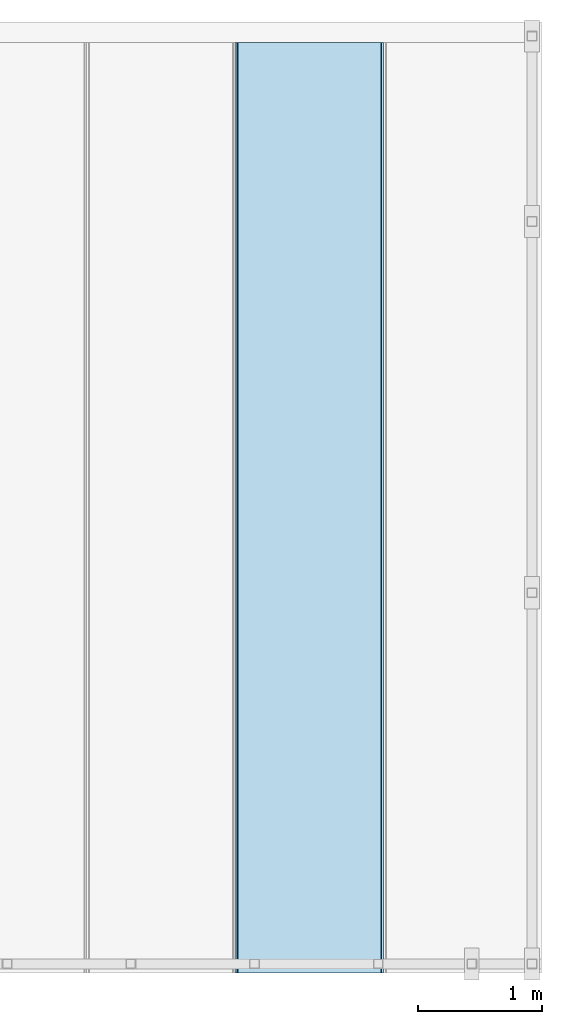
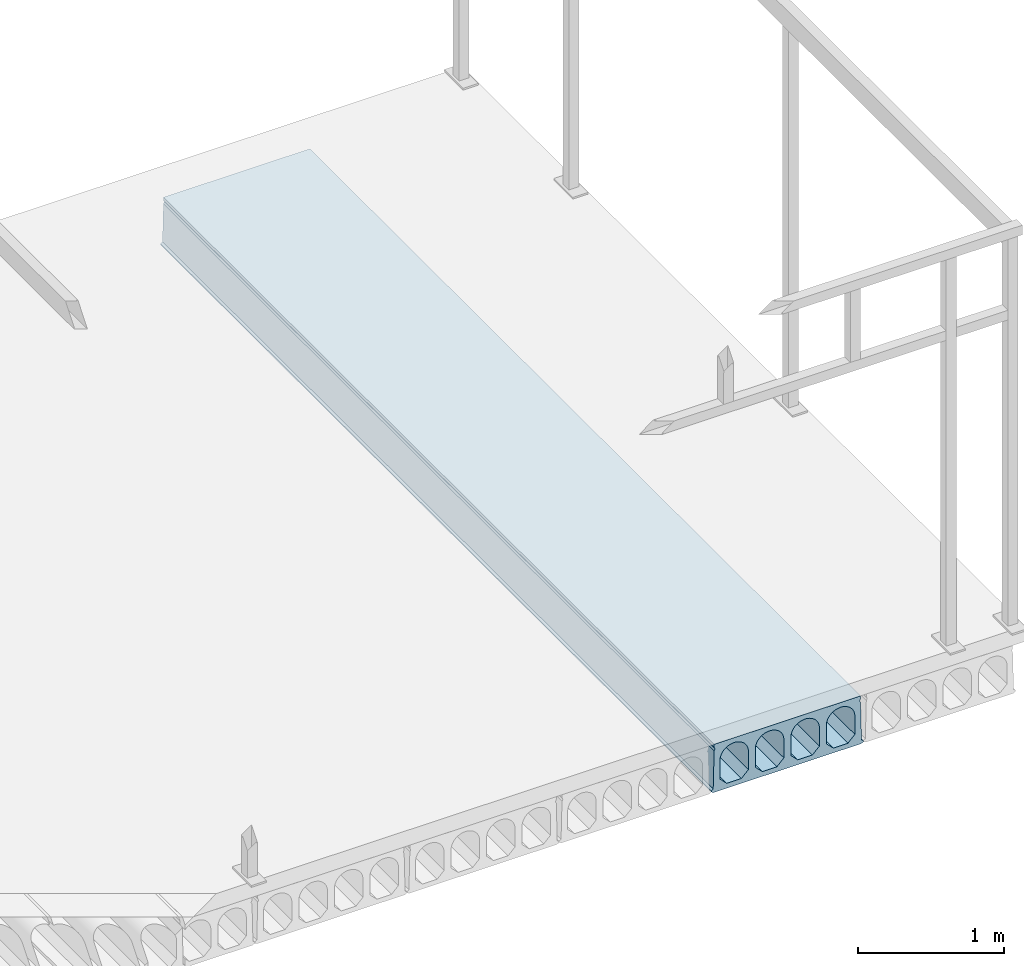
# One storey, part 19 of 20: 1 slab.
"""IFC2X3 building model written with IfcOpenShell, lengths in millimetres."""

from ifc_helpers import new_model, entity, si_unit, converted_unit, derived_unit, direction, frame, origin_with_axes, place, context, subcontext, project, spatial, faceted_brep, type_object, element, save


model = new_model("IFC2X3")

# Units and contexts
model_context = context("Model", 3, precision=0.01, world=frame((0.0, 4.29681676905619e-09, 0.0)), true_north=direction((4.01073788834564e-13, 1.0)))
plan_context = context("Plan", 3, precision=0.01, world=frame((0.0, 4.29681676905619e-09, 0.0)), true_north=direction((4.01073788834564e-13, 1.0)))
body_context = subcontext(model_context, "Body", "Model", "MODEL_VIEW")
ifc_project = project(units=[converted_unit("PLANEANGLEUNIT", "DEGREE", entity("IfcPositiveLengthMeasure", 0.0174532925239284), si_unit("PLANEANGLEUNIT", "RADIAN"), dimensions=[0, 0, 0, 0, 0, 0, 0]), si_unit("AREAUNIT", "SQUARE_METRE"), si_unit("LENGTHUNIT", "METRE", prefix="MILLI"), si_unit("MASSUNIT", "GRAM", prefix="KILO"), si_unit("POWERUNIT", "WATT"), si_unit("PRESSUREUNIT", "PASCAL", prefix="KILO"), si_unit("FORCEUNIT", "NEWTON", prefix="KILO"), si_unit("ELECTRICVOLTAGEUNIT", "VOLT"), si_unit("ELECTRICCURRENTUNIT", "AMPERE"), si_unit("THERMODYNAMICTEMPERATUREUNIT", "DEGREE_CELSIUS"), si_unit("TIMEUNIT", "SECOND"), si_unit("VOLUMEUNIT", "CUBIC_METRE"), derived_unit("LINEARVELOCITYUNIT", [(si_unit("LENGTHUNIT", "METRE"), 1), (si_unit("TIMEUNIT", "SECOND"), -1)]), derived_unit("VOLUMETRICFLOWRATEUNIT", [(si_unit("VOLUMEUNIT", "CUBIC_METRE"), 1), (si_unit("TIMEUNIT", "SECOND"), -1)]), derived_unit("THERMALTRANSMITTANCEUNIT", [(si_unit("POWERUNIT", "WATT"), 1), (si_unit("THERMODYNAMICTEMPERATUREUNIT", "KELVIN"), -1), (si_unit("AREAUNIT", "SQUARE_METRE"), -1)]), derived_unit("SOUNDPRESSUREUNIT", [(si_unit("PRESSUREUNIT", "PASCAL"), 1)])], contexts=[model_context, plan_context])

# Site, building, storey
site_placement = place(None, frame((0.0, -4.29681676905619e-09, 0.0), z_axis=(0.0, 0.0, 1.0), x_axis=(1.0, 0.0, 0.0)))
site = spatial("IfcSite", under=ifc_project, at=site_placement, Name="Gardermoen", CompositionType="ELEMENT")
building_placement = place(site_placement, frame((0.0, 4.29681676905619e-09, 0.0), z_axis=(0.0, 0.0, 1.0), x_axis=(1.0, 0.0, 0.0)))
building = spatial("IfcBuilding", under=site, at=building_placement, Name="TS", CompositionType="ELEMENT")
storey_placement = place(building_placement, origin_with_axes())
storey = spatial("IfcBuildingStorey", under=building, at=storey_placement, Name="D", CompositionType="ELEMENT", Elevation=0.0)

# Slab
slab_type = type_object("IfcSlabType", Name="HD400", PredefinedType="NOTDEFINED")
slab_placement = place(storey_placement, frame((611199.999766, 396739.995625, 203600.0), z_axis=(0.0, 0.0, 1.0), x_axis=(0.0, 1.0, 0.0)))
element("IfcSlab", 1, at=slab_placement, inside=storey, type_object=slab_type, Name="HULLDEKKE", ObjectType="HD400", PredefinedType="FLOOR", context=body_context, shape_type="Brep", body=[
    faceted_brep([(996.504375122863, 600.0, -180.0), (996.504375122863, 600.0, -190.0), (8520.0, 600.0, -190.0), (8520.0, 600.0, -180.0), (996.504375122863, 585.0, -170.0), (8520.0, 585.0, -170.0), (996.504375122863, 577.5, 145.0), (8520.0, 577.5, 145.0), (996.504375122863, 570.0, 160.0), (8520.0, 570.0, 160.0), (996.504375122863, 577.5, 175.0), (8520.0, 577.5, 175.0), (996.504375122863, 577.5, 200.0), (8520.0, 577.5, 200.0), (996.504375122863, -577.5, 200.0), (8520.0, -577.5, 200.0), (996.504375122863, -577.5, 175.0), (8520.0, -577.5, 175.0), (996.504375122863, -570.0, 160.0), (8520.0, -570.0, 160.0), (996.504375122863, -577.5, 145.0), (8520.0, -577.5, 145.0), (996.504375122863, -585.0, -170.0), (8520.0, -585.0, -170.0), (996.504375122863, -600.0, -180.0), (8520.0, -600.0, -180.0), (996.504375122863, -600.0, -190.0), (8520.0, -600.0, -190.0), (996.504375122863, -583.380004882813, -200.0), (8520.0, -583.380004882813, -200.0), (996.504375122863, 583.380004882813, -200.0), (8520.0, 583.380004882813, -200.0), (996.504375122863, -477.5, -160.0), (996.504375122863, -362.5, -160.0), (8520.0, -362.5, -160.0), (8520.0, -477.5, -160.0), (996.504375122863, -532.5, -105.0), (8520.0, -532.5, -105.0), (996.504375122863, -532.5, 47.5), (8520.0, -532.5, 47.5), (996.504375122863, -532.115755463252, 56.7901763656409), (8520.0, -532.115755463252, 56.7901763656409), (996.504375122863, -530.965646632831, 66.0168914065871), (8520.0, -530.965646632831, 66.0168914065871), (996.504375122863, -529.057529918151, 75.1171173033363), (8520.0, -529.057529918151, 75.1171173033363), (996.504375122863, -526.404439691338, 84.028690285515), (8520.0, -526.404439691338, 84.028690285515), (996.504375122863, -523.024499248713, 92.6907352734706), (8520.0, -523.024499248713, 92.6907352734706), (996.504375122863, -518.940797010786, 101.044081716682), (8520.0, -518.940797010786, 101.044081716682), (996.504375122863, -514.181228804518, 109.031667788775), (8520.0, -514.181228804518, 109.031667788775), (996.504375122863, -508.778307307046, 116.598930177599), (8520.0, -508.778307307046, 116.598930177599), (996.504375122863, -502.768939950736, 123.694176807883), (8520.0, -502.768939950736, 123.694176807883), (996.504375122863, -496.194176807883, 130.268939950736), (8520.0, -496.194176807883, 130.268939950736), (996.504375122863, -489.098930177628, 136.278307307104), (8520.0, -489.098930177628, 136.278307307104), (996.504375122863, -481.531667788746, 141.681228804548), (8520.0, -481.531667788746, 141.681228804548), (996.504375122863, -473.544081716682, 146.440797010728), (8520.0, -473.544081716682, 146.440797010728), (996.504375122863, -465.190735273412, 150.524499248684), (8520.0, -465.190735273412, 150.524499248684), (996.504375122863, -456.528690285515, 153.904439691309), (8520.0, -456.528690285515, 153.904439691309), (996.504375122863, -447.617117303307, 156.55752991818), (8520.0, -447.617117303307, 156.55752991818), (996.504375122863, -438.516891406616, 158.465646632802), (8520.0, -438.516891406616, 158.465646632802), (996.504375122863, -429.290176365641, 159.615755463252), (8520.0, -429.290176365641, 159.615755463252), (996.504375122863, -420.0, 160.0), (8520.0, -420.0, 160.0), (996.504375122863, -410.709823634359, 159.615755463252), (8520.0, -410.709823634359, 159.615755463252), (996.504375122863, -401.483108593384, 158.465646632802), (8520.0, -401.483108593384, 158.465646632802), (996.504375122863, -392.382882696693, 156.55752991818), (8520.0, -392.382882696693, 156.55752991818), (996.504375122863, -383.471309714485, 153.904439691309), (8520.0, -383.471309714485, 153.904439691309), (996.504375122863, -374.809264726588, 150.524499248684), (8520.0, -374.809264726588, 150.524499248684), (996.504375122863, -366.455918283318, 146.440797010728), (8520.0, -366.455918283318, 146.440797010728), (996.504375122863, -358.468332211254, 141.681228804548), (8520.0, -358.468332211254, 141.681228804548), (996.504375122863, -350.901069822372, 136.278307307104), (8520.0, -350.901069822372, 136.278307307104), (996.504375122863, -343.805823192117, 130.268939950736), (8520.0, -343.805823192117, 130.268939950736), (996.504375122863, -337.231060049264, 123.694176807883), (8520.0, -337.231060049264, 123.694176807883), (996.504375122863, -331.221692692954, 116.598930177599), (8520.0, -331.221692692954, 116.598930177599), (996.504375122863, -325.818771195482, 109.031667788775), (8520.0, -325.818771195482, 109.031667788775), (996.504375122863, -321.059202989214, 101.044081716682), (8520.0, -321.059202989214, 101.044081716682), (996.504375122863, -316.975500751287, 92.6907352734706), (8520.0, -316.975500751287, 92.6907352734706), (996.504375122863, -313.595560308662, 84.028690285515), (8520.0, -313.595560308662, 84.028690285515), (996.504375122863, -310.942470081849, 75.1171173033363), (8520.0, -310.942470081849, 75.1171173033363), (996.504375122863, -309.034353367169, 66.0168914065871), (8520.0, -309.034353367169, 66.0168914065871), (996.504375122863, -307.884244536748, 56.7901763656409), (8520.0, -307.884244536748, 56.7901763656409), (996.504375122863, -307.5, 47.5), (8520.0, -307.5, 47.5), (996.504375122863, -307.5, -105.0), (8520.0, -307.5, -105.0), (996.504375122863, -197.5, -160.0), (996.504375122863, -82.5, -160.0), (8520.0, -82.5, -160.0), (8520.0, -197.5, -160.0), (996.504375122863, -252.5, -105.0), (8520.0, -252.5, -105.0), (996.504375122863, -252.5, 47.5), (8520.0, -252.5, 47.5), (996.504375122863, -252.115755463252, 56.7901763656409), (8520.0, -252.115755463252, 56.7901763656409), (996.504375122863, -250.965646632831, 66.0168914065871), (8520.0, -250.965646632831, 66.0168914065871), (996.504375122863, -249.057529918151, 75.1171173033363), (8520.0, -249.057529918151, 75.1171173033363), (996.504375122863, -246.404439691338, 84.028690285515), (8520.0, -246.404439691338, 84.028690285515), (996.504375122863, -243.024499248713, 92.6907352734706), (8520.0, -243.024499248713, 92.6907352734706), (996.504375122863, -238.940797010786, 101.044081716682), (8520.0, -238.940797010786, 101.044081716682), (996.504375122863, -234.181228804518, 109.031667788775), (8520.0, -234.181228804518, 109.031667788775), (996.504375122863, -228.778307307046, 116.598930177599), (8520.0, -228.778307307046, 116.598930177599), (996.504375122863, -222.768939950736, 123.694176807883), (8520.0, -222.768939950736, 123.694176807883), (996.504375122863, -216.194176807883, 130.268939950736), (8520.0, -216.194176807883, 130.268939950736), (996.504375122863, -209.098930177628, 136.278307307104), (8520.0, -209.098930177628, 136.278307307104), (996.504375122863, -201.531667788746, 141.681228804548), (8520.0, -201.531667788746, 141.681228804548), (996.504375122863, -193.544081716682, 146.440797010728), (8520.0, -193.544081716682, 146.440797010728), (996.504375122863, -185.190735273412, 150.524499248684), (8520.0, -185.190735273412, 150.524499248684), (996.504375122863, -176.528690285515, 153.904439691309), (8520.0, -176.528690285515, 153.904439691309), (996.504375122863, -167.617117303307, 156.55752991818), (8520.0, -167.617117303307, 156.55752991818), (996.504375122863, -158.516891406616, 158.465646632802), (8520.0, -158.516891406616, 158.465646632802), (996.504375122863, -149.290176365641, 159.615755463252), (8520.0, -149.290176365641, 159.615755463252), (996.504375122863, -140.0, 160.0), (8520.0, -140.0, 160.0), (996.504375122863, -130.709823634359, 159.615755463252), (8520.0, -130.709823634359, 159.615755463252), (996.504375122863, -121.483108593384, 158.465646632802), (8520.0, -121.483108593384, 158.465646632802), (996.504375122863, -112.382882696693, 156.55752991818), (8520.0, -112.382882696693, 156.55752991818), (996.504375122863, -103.471309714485, 153.904439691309), (8520.0, -103.471309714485, 153.904439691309), (996.504375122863, -94.8092647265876, 150.524499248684), (8520.0, -94.8092647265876, 150.524499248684), (996.504375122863, -86.4559182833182, 146.440797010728), (8520.0, -86.4559182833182, 146.440797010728), (996.504375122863, -78.4683322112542, 141.681228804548), (8520.0, -78.4683322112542, 141.681228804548), (996.504375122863, -70.9010698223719, 136.278307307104), (8520.0, -70.9010698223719, 136.278307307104), (996.504375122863, -63.8058231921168, 130.268939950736), (8520.0, -63.8058231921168, 130.268939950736), (996.504375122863, -57.2310600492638, 123.694176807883), (8520.0, -57.2310600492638, 123.694176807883), (996.504375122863, -51.2216926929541, 116.598930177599), (8520.0, -51.2216926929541, 116.598930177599), (996.504375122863, -45.8187711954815, 109.031667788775), (8520.0, -45.8187711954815, 109.031667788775), (996.504375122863, -41.0592029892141, 101.044081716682), (8520.0, -41.0592029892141, 101.044081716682), (996.504375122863, -36.9755007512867, 92.6907352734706), (8520.0, -36.9755007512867, 92.6907352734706), (996.504375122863, -33.5955603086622, 84.028690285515), (8520.0, -33.5955603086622, 84.028690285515), (996.504375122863, -30.942470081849, 75.1171173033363), (8520.0, -30.942470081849, 75.1171173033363), (996.504375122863, -29.0343533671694, 66.0168914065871), (8520.0, -29.0343533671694, 66.0168914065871), (996.504375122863, -27.8842445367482, 56.7901763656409), (8520.0, -27.8842445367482, 56.7901763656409), (996.504375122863, -27.5, 47.5), (8520.0, -27.5, 47.5), (996.504375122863, -27.5, -105.0), (8520.0, -27.5, -105.0), (996.504375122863, 82.5, -160.0), (996.504375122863, 197.5, -160.0), (8520.0, 197.5, -160.0), (8520.0, 82.5, -160.0), (996.504375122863, 27.5, -105.0), (8520.0, 27.5, -105.0), (996.504375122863, 27.5, 47.5), (8520.0, 27.5, 47.5), (996.504375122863, 27.8842445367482, 56.7901763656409), (8520.0, 27.8842445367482, 56.7901763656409), (996.504375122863, 29.0343533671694, 66.0168914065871), (8520.0, 29.0343533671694, 66.0168914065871), (996.504375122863, 30.942470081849, 75.1171173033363), (8520.0, 30.942470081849, 75.1171173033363), (996.504375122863, 33.5955603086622, 84.028690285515), (8520.0, 33.5955603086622, 84.028690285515), (996.504375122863, 36.9755007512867, 92.6907352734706), (8520.0, 36.9755007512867, 92.6907352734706), (996.504375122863, 41.0592029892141, 101.044081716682), (8520.0, 41.0592029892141, 101.044081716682), (996.504375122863, 45.8187711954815, 109.031667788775), (8520.0, 45.8187711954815, 109.031667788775), (996.504375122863, 51.2216926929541, 116.598930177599), (8520.0, 51.2216926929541, 116.598930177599), (996.504375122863, 57.2310600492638, 123.694176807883), (8520.0, 57.2310600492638, 123.694176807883), (996.504375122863, 63.8058231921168, 130.268939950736), (8520.0, 63.8058231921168, 130.268939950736), (996.504375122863, 70.9010698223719, 136.278307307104), (8520.0, 70.9010698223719, 136.278307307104), (996.504375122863, 78.4683322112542, 141.681228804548), (8520.0, 78.4683322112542, 141.681228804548), (996.504375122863, 86.4559182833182, 146.440797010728), (8520.0, 86.4559182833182, 146.440797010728), (996.504375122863, 94.8092647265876, 150.524499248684), (8520.0, 94.8092647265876, 150.524499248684), (996.504375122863, 103.471309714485, 153.904439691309), (8520.0, 103.471309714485, 153.904439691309), (996.504375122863, 112.382882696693, 156.55752991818), (8520.0, 112.382882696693, 156.55752991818), (996.504375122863, 121.483108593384, 158.465646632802), (8520.0, 121.483108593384, 158.465646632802), (996.504375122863, 130.709823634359, 159.615755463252), (8520.0, 130.709823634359, 159.615755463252), (996.504375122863, 140.0, 160.0), (8520.0, 140.0, 160.0), (996.504375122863, 149.290176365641, 159.615755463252), (8520.0, 149.290176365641, 159.615755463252), (996.504375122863, 158.516891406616, 158.465646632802), (8520.0, 158.516891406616, 158.465646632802), (996.504375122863, 167.617117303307, 156.55752991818), (8520.0, 167.617117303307, 156.55752991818), (996.504375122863, 176.528690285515, 153.904439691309), (8520.0, 176.528690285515, 153.904439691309), (996.504375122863, 185.190735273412, 150.524499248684), (8520.0, 185.190735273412, 150.524499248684), (996.504375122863, 193.544081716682, 146.440797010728), (8520.0, 193.544081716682, 146.440797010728), (996.504375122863, 201.531667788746, 141.681228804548), (8520.0, 201.531667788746, 141.681228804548), (996.504375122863, 209.098930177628, 136.278307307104), (8520.0, 209.098930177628, 136.278307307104), (996.504375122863, 216.194176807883, 130.268939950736), (8520.0, 216.194176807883, 130.268939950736), (996.504375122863, 222.768939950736, 123.694176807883), (8520.0, 222.768939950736, 123.694176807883), (996.504375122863, 228.778307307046, 116.598930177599), (8520.0, 228.778307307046, 116.598930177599), (996.504375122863, 234.181228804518, 109.031667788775), (8520.0, 234.181228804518, 109.031667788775), (996.504375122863, 238.940797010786, 101.044081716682), (8520.0, 238.940797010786, 101.044081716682), (996.504375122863, 243.024499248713, 92.6907352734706), (8520.0, 243.024499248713, 92.6907352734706), (996.504375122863, 246.404439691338, 84.028690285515), (8520.0, 246.404439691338, 84.028690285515), (996.504375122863, 249.057529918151, 75.1171173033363), (8520.0, 249.057529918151, 75.1171173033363), (996.504375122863, 250.965646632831, 66.0168914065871), (8520.0, 250.965646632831, 66.0168914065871), (996.504375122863, 252.115755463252, 56.7901763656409), (8520.0, 252.115755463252, 56.7901763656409), (996.504375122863, 252.5, 47.5), (8520.0, 252.5, 47.5), (996.504375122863, 252.5, -105.0), (8520.0, 252.5, -105.0), (996.504375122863, 362.5, -160.0), (996.504375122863, 477.5, -160.0), (8520.0, 477.5, -160.0), (8520.0, 362.5, -160.0), (996.504375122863, 307.5, -105.0), (8520.0, 307.5, -105.0), (996.504375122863, 307.5, 47.5), (8520.0, 307.5, 47.5), (996.504375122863, 307.884244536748, 56.7901763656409), (8520.0, 307.884244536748, 56.7901763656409), (996.504375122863, 309.034353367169, 66.0168914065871), (8520.0, 309.034353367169, 66.0168914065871), (996.504375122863, 310.942470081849, 75.1171173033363), (8520.0, 310.942470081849, 75.1171173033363), (996.504375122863, 313.595560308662, 84.028690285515), (8520.0, 313.595560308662, 84.028690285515), (996.504375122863, 316.975500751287, 92.6907352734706), (8520.0, 316.975500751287, 92.6907352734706), (996.504375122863, 321.059202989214, 101.044081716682), (8520.0, 321.059202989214, 101.044081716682), (996.504375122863, 325.818771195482, 109.031667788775), (8520.0, 325.818771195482, 109.031667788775), (996.504375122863, 331.221692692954, 116.598930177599), (8520.0, 331.221692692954, 116.598930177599), (996.504375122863, 337.231060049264, 123.694176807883), (8520.0, 337.231060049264, 123.694176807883), (996.504375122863, 343.805823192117, 130.268939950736), (8520.0, 343.805823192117, 130.268939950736), (996.504375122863, 350.901069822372, 136.278307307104), (8520.0, 350.901069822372, 136.278307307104), (996.504375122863, 358.468332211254, 141.681228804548), (8520.0, 358.468332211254, 141.681228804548), (996.504375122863, 366.455918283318, 146.440797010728), (8520.0, 366.455918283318, 146.440797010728), (996.504375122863, 374.809264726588, 150.524499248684), (8520.0, 374.809264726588, 150.524499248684), (996.504375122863, 383.471309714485, 153.904439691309), (8520.0, 383.471309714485, 153.904439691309), (996.504375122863, 392.382882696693, 156.55752991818), (8520.0, 392.382882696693, 156.55752991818), (996.504375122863, 401.483108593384, 158.465646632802), (8520.0, 401.483108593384, 158.465646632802), (996.504375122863, 410.709823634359, 159.615755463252), (8520.0, 410.709823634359, 159.615755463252), (996.504375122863, 420.0, 160.0), (8520.0, 420.0, 160.0), (996.504375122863, 429.290176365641, 159.615755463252), (8520.0, 429.290176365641, 159.615755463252), (996.504375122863, 438.516891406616, 158.465646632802), (8520.0, 438.516891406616, 158.465646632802), (996.504375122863, 447.617117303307, 156.55752991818), (8520.0, 447.617117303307, 156.55752991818), (996.504375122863, 456.528690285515, 153.904439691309), (8520.0, 456.528690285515, 153.904439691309), (996.504375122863, 465.190735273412, 150.524499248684), (8520.0, 465.190735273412, 150.524499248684), (996.504375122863, 473.544081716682, 146.440797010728), (8520.0, 473.544081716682, 146.440797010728), (996.504375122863, 481.531667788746, 141.681228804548), (8520.0, 481.531667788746, 141.681228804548), (996.504375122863, 489.098930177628, 136.278307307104), (8520.0, 489.098930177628, 136.278307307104), (996.504375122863, 496.194176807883, 130.268939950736), (8520.0, 496.194176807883, 130.268939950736), (996.504375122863, 502.768939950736, 123.694176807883), (8520.0, 502.768939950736, 123.694176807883), (996.504375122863, 508.778307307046, 116.598930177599), (8520.0, 508.778307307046, 116.598930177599), (996.504375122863, 514.181228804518, 109.031667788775), (8520.0, 514.181228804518, 109.031667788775), (996.504375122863, 518.940797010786, 101.044081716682), (8520.0, 518.940797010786, 101.044081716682), (996.504375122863, 523.024499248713, 92.6907352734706), (8520.0, 523.024499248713, 92.6907352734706), (996.504375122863, 526.404439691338, 84.028690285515), (8520.0, 526.404439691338, 84.028690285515), (996.504375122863, 529.057529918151, 75.1171173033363), (8520.0, 529.057529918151, 75.1171173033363), (996.504375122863, 530.965646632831, 66.0168914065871), (8520.0, 530.965646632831, 66.0168914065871), (996.504375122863, 532.115755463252, 56.7901763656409), (8520.0, 532.115755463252, 56.7901763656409), (996.504375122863, 532.5, 47.5), (8520.0, 532.5, 47.5), (996.504375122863, 532.5, -105.0), (8520.0, 532.5, -105.0)], [[[0, 1, 2, 3]], [[4, 0, 3, 5]], [[6, 4, 5, 7]], [[8, 6, 7, 9]], [[10, 8, 9, 11]], [[12, 10, 11, 13]], [[14, 12, 13, 15]], [[16, 14, 15, 17]], [[18, 16, 17, 19]], [[20, 18, 19, 21]], [[22, 20, 21, 23]], [[24, 22, 23, 25]], [[26, 24, 25, 27]], [[28, 26, 27, 29]], [[30, 28, 29, 31]], [[1, 30, 31, 2]], [[32, 33, 34, 35]], [[36, 32, 35, 37]], [[38, 36, 37, 39]], [[40, 38, 39, 41]], [[42, 40, 41, 43]], [[44, 42, 43, 45]], [[46, 44, 45, 47]], [[48, 46, 47, 49]], [[50, 48, 49, 51]], [[52, 50, 51, 53]], [[54, 52, 53, 55]], [[56, 54, 55, 57]], [[58, 56, 57, 59]], [[60, 58, 59, 61]], [[62, 60, 61, 63]], [[64, 62, 63, 65]], [[66, 64, 65, 67]], [[68, 66, 67, 69]], [[70, 68, 69, 71]], [[72, 70, 71, 73]], [[74, 72, 73, 75]], [[76, 74, 75, 77]], [[78, 76, 77, 79]], [[80, 78, 79, 81]], [[82, 80, 81, 83]], [[84, 82, 83, 85]], [[86, 84, 85, 87]], [[88, 86, 87, 89]], [[90, 88, 89, 91]], [[92, 90, 91, 93]], [[94, 92, 93, 95]], [[96, 94, 95, 97]], [[98, 96, 97, 99]], [[100, 98, 99, 101]], [[102, 100, 101, 103]], [[104, 102, 103, 105]], [[106, 104, 105, 107]], [[108, 106, 107, 109]], [[110, 108, 109, 111]], [[112, 110, 111, 113]], [[114, 112, 113, 115]], [[116, 114, 115, 117]], [[33, 116, 117, 34]], [[118, 119, 120, 121]], [[122, 118, 121, 123]], [[124, 122, 123, 125]], [[126, 124, 125, 127]], [[128, 126, 127, 129]], [[130, 128, 129, 131]], [[132, 130, 131, 133]], [[134, 132, 133, 135]], [[136, 134, 135, 137]], [[138, 136, 137, 139]], [[140, 138, 139, 141]], [[142, 140, 141, 143]], [[144, 142, 143, 145]], [[146, 144, 145, 147]], [[148, 146, 147, 149]], [[150, 148, 149, 151]], [[152, 150, 151, 153]], [[154, 152, 153, 155]], [[156, 154, 155, 157]], [[158, 156, 157, 159]], [[160, 158, 159, 161]], [[162, 160, 161, 163]], [[164, 162, 163, 165]], [[166, 164, 165, 167]], [[168, 166, 167, 169]], [[170, 168, 169, 171]], [[172, 170, 171, 173]], [[174, 172, 173, 175]], [[176, 174, 175, 177]], [[178, 176, 177, 179]], [[180, 178, 179, 181]], [[182, 180, 181, 183]], [[184, 182, 183, 185]], [[186, 184, 185, 187]], [[188, 186, 187, 189]], [[190, 188, 189, 191]], [[192, 190, 191, 193]], [[194, 192, 193, 195]], [[196, 194, 195, 197]], [[198, 196, 197, 199]], [[200, 198, 199, 201]], [[202, 200, 201, 203]], [[119, 202, 203, 120]], [[204, 205, 206, 207]], [[208, 204, 207, 209]], [[210, 208, 209, 211]], [[212, 210, 211, 213]], [[214, 212, 213, 215]], [[216, 214, 215, 217]], [[218, 216, 217, 219]], [[220, 218, 219, 221]], [[222, 220, 221, 223]], [[224, 222, 223, 225]], [[226, 224, 225, 227]], [[228, 226, 227, 229]], [[230, 228, 229, 231]], [[232, 230, 231, 233]], [[234, 232, 233, 235]], [[236, 234, 235, 237]], [[238, 236, 237, 239]], [[240, 238, 239, 241]], [[242, 240, 241, 243]], [[244, 242, 243, 245]], [[246, 244, 245, 247]], [[248, 246, 247, 249]], [[250, 248, 249, 251]], [[252, 250, 251, 253]], [[254, 252, 253, 255]], [[256, 254, 255, 257]], [[258, 256, 257, 259]], [[260, 258, 259, 261]], [[262, 260, 261, 263]], [[264, 262, 263, 265]], [[266, 264, 265, 267]], [[268, 266, 267, 269]], [[270, 268, 269, 271]], [[272, 270, 271, 273]], [[274, 272, 273, 275]], [[276, 274, 275, 277]], [[278, 276, 277, 279]], [[280, 278, 279, 281]], [[282, 280, 281, 283]], [[284, 282, 283, 285]], [[286, 284, 285, 287]], [[288, 286, 287, 289]], [[205, 288, 289, 206]], [[290, 291, 292, 293]], [[294, 290, 293, 295]], [[296, 294, 295, 297]], [[298, 296, 297, 299]], [[300, 298, 299, 301]], [[302, 300, 301, 303]], [[304, 302, 303, 305]], [[306, 304, 305, 307]], [[308, 306, 307, 309]], [[310, 308, 309, 311]], [[312, 310, 311, 313]], [[314, 312, 313, 315]], [[316, 314, 315, 317]], [[318, 316, 317, 319]], [[320, 318, 319, 321]], [[322, 320, 321, 323]], [[324, 322, 323, 325]], [[326, 324, 325, 327]], [[328, 326, 327, 329]], [[330, 328, 329, 331]], [[332, 330, 331, 333]], [[334, 332, 333, 335]], [[336, 334, 335, 337]], [[338, 336, 337, 339]], [[340, 338, 339, 341]], [[342, 340, 341, 343]], [[344, 342, 343, 345]], [[346, 344, 345, 347]], [[348, 346, 347, 349]], [[350, 348, 349, 351]], [[352, 350, 351, 353]], [[354, 352, 353, 355]], [[356, 354, 355, 357]], [[358, 356, 357, 359]], [[360, 358, 359, 361]], [[362, 360, 361, 363]], [[364, 362, 363, 365]], [[366, 364, 365, 367]], [[368, 366, 367, 369]], [[370, 368, 369, 371]], [[372, 370, 371, 373]], [[374, 372, 373, 375]], [[291, 374, 375, 292]], [[3, 2, 31, 29, 27, 25, 23, 21, 19, 17, 15, 13, 11, 9, 7, 5], [293, 292, 375, 373, 371, 369, 367, 365, 363, 361, 359, 357, 355, 353, 351, 349, 347, 345, 343, 341, 339, 337, 335, 333, 331, 329, 327, 325, 323, 321, 319, 317, 315, 313, 311, 309, 307, 305, 303, 301, 299, 297, 295], [207, 206, 289, 287, 285, 283, 281, 279, 277, 275, 273, 271, 269, 267, 265, 263, 261, 259, 257, 255, 253, 251, 249, 247, 245, 243, 241, 239, 237, 235, 233, 231, 229, 227, 225, 223, 221, 219, 217, 215, 213, 211, 209], [121, 120, 203, 201, 199, 197, 195, 193, 191, 189, 187, 185, 183, 181, 179, 177, 175, 173, 171, 169, 167, 165, 163, 161, 159, 157, 155, 153, 151, 149, 147, 145, 143, 141, 139, 137, 135, 133, 131, 129, 127, 125, 123], [35, 34, 117, 115, 113, 111, 109, 107, 105, 103, 101, 99, 97, 95, 93, 91, 89, 87, 85, 83, 81, 79, 77, 75, 73, 71, 69, 67, 65, 63, 61, 59, 57, 55, 53, 51, 49, 47, 45, 43, 41, 39, 37]], [[4, 6, 8, 10, 12, 14, 16, 18, 20, 22, 24, 26, 28, 30, 1, 0], [36, 38, 40, 42, 44, 46, 48, 50, 52, 54, 56, 58, 60, 62, 64, 66, 68, 70, 72, 74, 76, 78, 80, 82, 84, 86, 88, 90, 92, 94, 96, 98, 100, 102, 104, 106, 108, 110, 112, 114, 116, 33, 32], [122, 124, 126, 128, 130, 132, 134, 136, 138, 140, 142, 144, 146, 148, 150, 152, 154, 156, 158, 160, 162, 164, 166, 168, 170, 172, 174, 176, 178, 180, 182, 184, 186, 188, 190, 192, 194, 196, 198, 200, 202, 119, 118], [208, 210, 212, 214, 216, 218, 220, 222, 224, 226, 228, 230, 232, 234, 236, 238, 240, 242, 244, 246, 248, 250, 252, 254, 256, 258, 260, 262, 264, 266, 268, 270, 272, 274, 276, 278, 280, 282, 284, 286, 288, 205, 204], [294, 296, 298, 300, 302, 304, 306, 308, 310, 312, 314, 316, 318, 320, 322, 324, 326, 328, 330, 332, 334, 336, 338, 340, 342, 344, 346, 348, 350, 352, 354, 356, 358, 360, 362, 364, 366, 368, 370, 372, 374, 291, 290]]], orient=[[False], [False], [False], [False], [False], [False], [False], [False], [False], [False], [False], [False], [False], [False], [False], [False], [False], [False], [False], [False], [False], [False], [False], [False], [False], [False], [False], [False], [False], [False], [False], [False], [False], [False], [False], [False], [False], [False], [False], [False], [False], [False], [False], [False], [False], [False], [False], [False], [False], [False], [False], [False], [False], [False], [False], [False], [False], [False], [False], [False], [False], [False], [False], [False], [False], [False], [False], [False], [False], [False], [False], [False], [False], [False], [False], [False], [False], [False], [False], [False], [False], [False], [False], [False], [False], [False], [False], [False], [False], [False], [False], [False], [False], [False], [False], [False], [False], [False], [False], [False], [False], [False], [False], [False], [False], [False], [False], [False], [False], [False], [False], [False], [False], [False], [False], [False], [False], [False], [False], [False], [False], [False], [False], [False], [False], [False], [False], [False], [False], [False], [False], [False], [False], [False], [False], [False], [False], [False], [False], [False], [False], [False], [False], [False], [False], [False], [False], [False], [False], [False], [False], [False], [False], [False], [False], [False], [False], [False], [False], [False], [False], [False], [False], [False], [False], [False], [False], [False], [False], [False], [False], [False], [False], [False], [False], [False], [False], [False], [False], [False], [False], [False], [False], [False], [False], [False], [False], [False], [False, False, False, False, False], [False, False, False, False, False]]),
])

save(model, "model.ifc")
